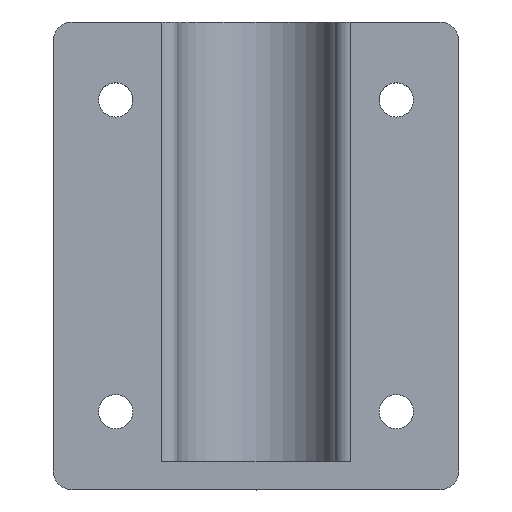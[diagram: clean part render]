
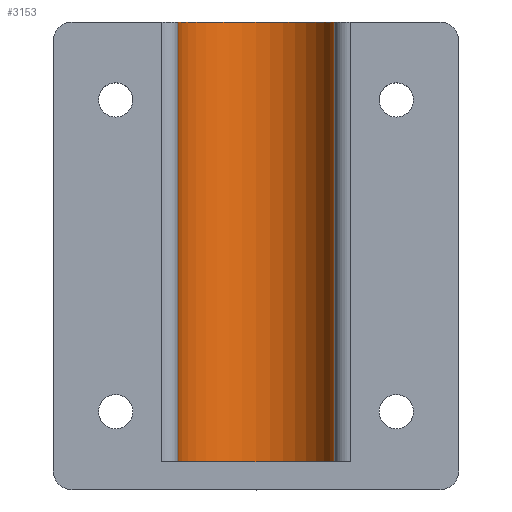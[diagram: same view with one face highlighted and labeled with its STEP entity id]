
A CAD part, top view. The second image highlights one B-rep face of the part: STEP entity #3153.
In plain terms, the highlighted cylindrical face has radius 25.15 mm (diameter 50.3 mm), a partial arc.
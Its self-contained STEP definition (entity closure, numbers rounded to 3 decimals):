
#42 = DIRECTION ( 'NONE',  ( 0., 1., 0. ) ) ;
#69 = VERTEX_POINT ( 'NONE', #2058 ) ;
#115 = CARTESIAN_POINT ( 'NONE',  ( 0., -66., -24.75 ) ) ;
#138 = AXIS2_PLACEMENT_3D ( 'NONE', #115, #336, #1211 ) ;
#324 = DIRECTION ( 'NONE',  ( 0., 0., 1. ) ) ;
#336 = DIRECTION ( 'NONE',  ( 0., 1., 0. ) ) ;
#340 = CARTESIAN_POINT ( 'NONE',  ( 0., -145.853, -24.75 ) ) ;
#360 = VERTEX_POINT ( 'NONE', #2773 ) ;
#378 = VECTOR ( 'NONE', #3140, 1000. ) ;
#573 = VERTEX_POINT ( 'NONE', #2422 ) ;
#639 = ORIENTED_EDGE ( 'NONE', *, *, #1861, .T. ) ;
#702 = EDGE_LOOP ( 'NONE', ( #639, #1483, #2312, #1963 ) ) ;
#718 = AXIS2_PLACEMENT_3D ( 'NONE', #2490, #3341, #1973 ) ;
#960 = LINE ( 'NONE', #2070, #378 ) ;
#1022 = CARTESIAN_POINT ( 'NONE',  ( 25.15, -66., -24.75 ) ) ;
#1211 = DIRECTION ( 'NONE',  ( 0., 0., -1. ) ) ;
#1483 = ORIENTED_EDGE ( 'NONE', *, *, #3148, .T. ) ;
#1751 = VERTEX_POINT ( 'NONE', #1022 ) ;
#1787 = CARTESIAN_POINT ( 'NONE',  ( 25.15, -145.853, -24.75 ) ) ;
#1861 = EDGE_CURVE ( 'NONE', #1751, #360, #2529, .T. ) ;
#1963 = ORIENTED_EDGE ( 'NONE', *, *, #2621, .F. ) ;
#1973 = DIRECTION ( 'NONE',  ( 0., 0., 1. ) ) ;
#2058 = CARTESIAN_POINT ( 'NONE',  ( -25.15, 75., -24.75 ) ) ;
#2070 = CARTESIAN_POINT ( 'NONE',  ( -25.15, -145.853, -24.75 ) ) ;
#2100 = AXIS2_PLACEMENT_3D ( 'NONE', #340, #42, #324 ) ;
#2215 = CYLINDRICAL_SURFACE ( 'NONE', #2100, 25.15 ) ;
#2312 = ORIENTED_EDGE ( 'NONE', *, *, #3252, .F. ) ;
#2422 = CARTESIAN_POINT ( 'NONE',  ( -25.15, -66., -24.75 ) ) ;
#2490 = CARTESIAN_POINT ( 'NONE',  ( 0., 75., -24.75 ) ) ;
#2529 = LINE ( 'NONE', #1787, #3494 ) ;
#2621 = EDGE_CURVE ( 'NONE', #1751, #573, #3218, .T. ) ;
#2773 = CARTESIAN_POINT ( 'NONE',  ( 25.15, 75., -24.75 ) ) ;
#3140 = DIRECTION ( 'NONE',  ( 0., 1., 0. ) ) ;
#3148 = EDGE_CURVE ( 'NONE', #360, #69, #3223, .T. ) ;
#3153 = ADVANCED_FACE ( 'NONE', ( #3318 ), #2215, .F. ) ;
#3218 = CIRCLE ( 'NONE', #138, 25.15 ) ;
#3223 = CIRCLE ( 'NONE', #718, 25.15 ) ;
#3252 = EDGE_CURVE ( 'NONE', #573, #69, #960, .T. ) ;
#3318 = FACE_OUTER_BOUND ( 'NONE', #702, .T. ) ;
#3341 = DIRECTION ( 'NONE',  ( 0., 1., 0. ) ) ;
#3399 = DIRECTION ( 'NONE',  ( 0., 1., 0. ) ) ;
#3494 = VECTOR ( 'NONE', #3399, 1000. ) ;
